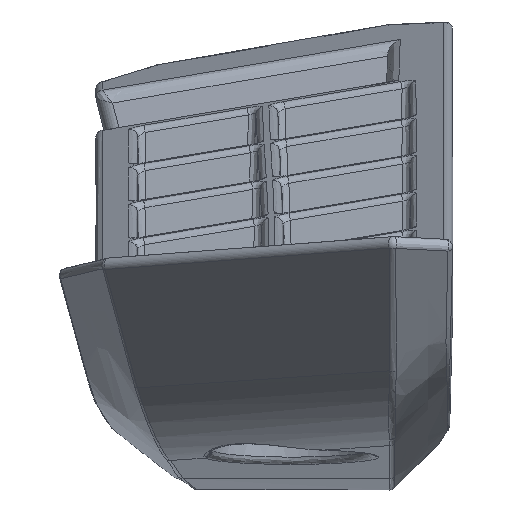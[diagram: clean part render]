
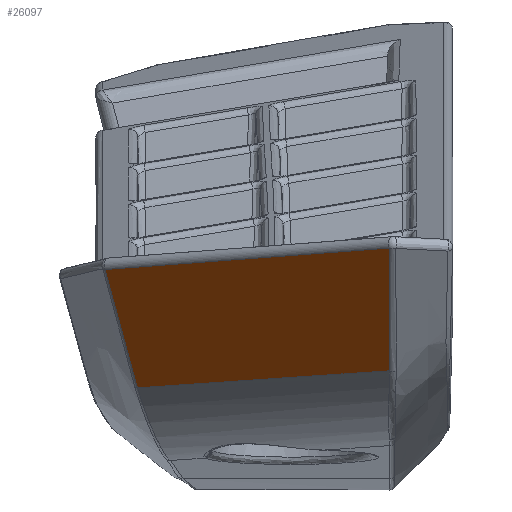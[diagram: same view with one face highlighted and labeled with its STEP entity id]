
A CAD part, top view. The second image highlights one B-rep face of the part: STEP entity #26097.
In plain terms, the highlighted planar face has unit normal (-0.51, -0.528, 0.679).
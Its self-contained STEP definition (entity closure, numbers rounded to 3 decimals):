
#6588=CARTESIAN_POINT('',(-68.124,-231.471,
203.98));
#6668=CARTESIAN_POINT('',(-51.433,-230.365,
217.377));
#6843=DIRECTION('',(0.776,0.057,0.628));
#6844=VECTOR('',#6843,24.27);
#6845=CARTESIAN_POINT('',(-70.265,-223.634,
208.467));
#6846=LINE('',#6845,#6844);
#6847=CARTESIAN_POINT('',(-51.433,-230.365,
217.377));
#6848=CARTESIAN_POINT('',(-51.432,-230.346,
217.392));
#6849=CARTESIAN_POINT('',(-51.431,-230.31,
217.421));
#6850=CARTESIAN_POINT('',(-51.43,-230.257,
217.463));
#6851=CARTESIAN_POINT('',(-51.43,-230.203,
217.505));
#6852=CARTESIAN_POINT('',(-51.429,-230.149,
217.547));
#6853=CARTESIAN_POINT('',(-51.429,-230.09,
217.593));
#6854=CARTESIAN_POINT('',(-51.429,-230.025,
217.644));
#6855=CARTESIAN_POINT('',(-51.428,-229.955,
217.699));
#6856=CARTESIAN_POINT('',(-51.428,-229.88,
217.758));
#6857=CARTESIAN_POINT('',(-51.427,-229.797,
217.822));
#6858=CARTESIAN_POINT('',(-51.427,-229.704,
217.895));
#6859=CARTESIAN_POINT('',(-51.426,-229.597,
217.979));
#6860=CARTESIAN_POINT('',(-51.426,-229.475,
218.074));
#6861=CARTESIAN_POINT('',(-51.425,-229.344,
218.176));
#6862=CARTESIAN_POINT('',(-51.425,-229.211,
218.28));
#6863=CARTESIAN_POINT('',(-51.425,-229.081,
218.381));
#6864=CARTESIAN_POINT('',(-51.424,-228.955,
218.48));
#6865=CARTESIAN_POINT('',(-51.424,-228.831,
218.576));
#6866=CARTESIAN_POINT('',(-51.424,-228.709,
218.672));
#6867=CARTESIAN_POINT('',(-51.424,-228.586,
218.767));
#6868=CARTESIAN_POINT('',(-51.424,-228.464,
218.862));
#6869=CARTESIAN_POINT('',(-51.424,-228.343,
218.956));
#6870=CARTESIAN_POINT('',(-51.424,-228.224,
219.049));
#6871=CARTESIAN_POINT('',(-51.424,-228.104,
219.142));
#6872=CARTESIAN_POINT('',(-51.424,-227.974,
219.243));
#6873=CARTESIAN_POINT('',(-51.424,-227.832,
219.353));
#6874=CARTESIAN_POINT('',(-51.424,-227.68,
219.472));
#6875=CARTESIAN_POINT('',(-51.424,-227.519,
219.597));
#6876=CARTESIAN_POINT('',(-51.424,-227.349,
219.729));
#6877=CARTESIAN_POINT('',(-51.424,-227.166,
219.871));
#6878=CARTESIAN_POINT('',(-51.424,-226.968,
220.025));
#6879=CARTESIAN_POINT('',(-51.424,-226.753,
220.192));
#6880=CARTESIAN_POINT('',(-51.424,-226.518,
220.375));
#6881=CARTESIAN_POINT('',(-51.424,-226.26,
220.576));
#6882=CARTESIAN_POINT('',(-51.424,-225.981,
220.793));
#6883=CARTESIAN_POINT('',(-51.424,-225.68,
221.027));
#6884=CARTESIAN_POINT('',(-51.424,-225.358,
221.278));
#6885=CARTESIAN_POINT('',(-51.424,-225.01,
221.548));
#6886=CARTESIAN_POINT('',(-51.424,-224.633,
221.841));
#6887=CARTESIAN_POINT('',(-51.424,-224.226,
222.158));
#6888=CARTESIAN_POINT('',(-51.424,-223.787,
222.499));
#6889=CARTESIAN_POINT('',(-51.424,-223.313,
222.868));
#6890=CARTESIAN_POINT('',(-51.424,-222.802,
223.266));
#6891=CARTESIAN_POINT('',(-51.424,-222.432,
223.553));
#6892=CARTESIAN_POINT('',(-51.424,-222.241,
223.702));
#6894=DIRECTION('',(-0.779,-0.052,-0.625));
#6895=VECTOR('',#6894,21.432);
#6896=CARTESIAN_POINT('',(-51.433,-230.365,
217.377));
#6897=LINE('',#6896,#6895);
#6898=CARTESIAN_POINT('',(-70.265,-223.634,
208.467));
#6899=CARTESIAN_POINT('',(-70.206,-223.85,
208.343));
#6900=CARTESIAN_POINT('',(-70.088,-224.282,
208.095));
#6901=CARTESIAN_POINT('',(-69.908,-224.943,
207.717));
#6902=CARTESIAN_POINT('',(-69.736,-225.571,
207.358));
#6903=CARTESIAN_POINT('',(-69.576,-226.153,
207.025));
#6904=CARTESIAN_POINT('',(-69.429,-226.686,
206.72));
#6905=CARTESIAN_POINT('',(-69.293,-227.179,
206.439));
#6906=CARTESIAN_POINT('',(-69.166,-227.642,
206.175));
#6907=CARTESIAN_POINT('',(-69.045,-228.084,
205.922));
#6908=CARTESIAN_POINT('',(-68.93,-228.509,
205.678));
#6909=CARTESIAN_POINT('',(-68.822,-228.914,
205.443));
#6910=CARTESIAN_POINT('',(-68.721,-229.296,
205.222));
#6911=CARTESIAN_POINT('',(-68.628,-229.65,
205.018));
#6912=CARTESIAN_POINT('',(-68.542,-229.973,
204.831));
#6913=CARTESIAN_POINT('',(-68.463,-230.265,
204.663));
#6914=CARTESIAN_POINT('',(-68.39,-230.53,
204.511));
#6915=CARTESIAN_POINT('',(-68.323,-230.772,
204.373));
#6916=CARTESIAN_POINT('',(-68.262,-230.993,
204.248));
#6917=CARTESIAN_POINT('',(-68.199,-231.217,
204.121));
#6918=CARTESIAN_POINT('',(-68.15,-231.384,
204.028));
#6919=CARTESIAN_POINT('',(-68.124,-231.471,
203.98));
#9146=CARTESIAN_POINT('',(-70.265,-223.634,
208.467));
#9147=CARTESIAN_POINT('',(-51.424,-222.241,
223.702));
#9148=VERTEX_POINT('',#9146);
#9149=VERTEX_POINT('',#9147);
#9209=VERTEX_POINT('',#6588);
#9212=VERTEX_POINT('',#6668);
#26085=CARTESIAN_POINT('',(-62.446,-225.804,
212.652));
#26086=DIRECTION('',(-0.51,-0.528,0.679));
#26087=DIRECTION('',(-0.829,0.09,-0.552));
#26088=AXIS2_PLACEMENT_3D('',#26085,#26086,#26087);
#26089=PLANE('',#26088);
#26090=ORIENTED_EDGE('',*,*,#26078,.T.);
#26091=ORIENTED_EDGE('',*,*,#26053,.F.);
#26092=ORIENTED_EDGE('',*,*,#24598,.T.);
#26094=ORIENTED_EDGE('',*,*,#26093,.F.);
#26095=EDGE_LOOP('',(#26090,#26091,#26092,#26094));
#26096=FACE_OUTER_BOUND('',#26095,.F.);
#26097=ADVANCED_FACE('',(#26096),#26089,.T.);
#6893=B_SPLINE_CURVE_WITH_KNOTS('',3,(#6847,#6848,#6849,#6850,#6851,#6852,#6853,
#6854,#6855,#6856,#6857,#6858,#6859,#6860,#6861,#6862,#6863,#6864,#6865,#6866,
#6867,#6868,#6869,#6870,#6871,#6872,#6873,#6874,#6875,#6876,#6877,#6878,#6879,
#6880,#6881,#6882,#6883,#6884,#6885,#6886,#6887,#6888,#6889,#6890,#6891,#6892),
.UNSPECIFIED.,.F.,.F.,(4,1,1,1,1,1,1,1,1,1,1,1,1,1,1,1,1,1,1,1,1,1,1,1,1,1,1,1,
1,1,1,1,1,1,1,1,1,1,1,1,1,1,1,4),(0.,0.023,0.047,
0.07,0.093,0.116,0.14,
0.163,0.186,0.209,0.233,
0.256,0.279,0.302,0.326,
0.349,0.372,0.395,0.419,
0.442,0.465,0.488,0.512,
0.535,0.558,0.581,0.605,
0.628,0.651,0.674,0.698,
0.721,0.744,0.767,0.791,
0.814,0.837,0.86,0.884,
0.907,0.93,0.953,0.977,1.),
.UNSPECIFIED.);
#6920=B_SPLINE_CURVE_WITH_KNOTS('',3,(#6898,#6899,#6900,#6901,#6902,#6903,#6904,
#6905,#6906,#6907,#6908,#6909,#6910,#6911,#6912,#6913,#6914,#6915,#6916,#6917,
#6918,#6919),.UNSPECIFIED.,.F.,.F.,(4,1,1,1,1,1,1,1,1,1,1,1,1,1,1,1,1,1,1,4),(
0.,0.053,0.105,0.158,0.211,
0.263,0.316,0.368,0.421,
0.474,0.526,0.579,0.632,
0.684,0.737,0.789,0.842,
0.895,0.947,1.),.UNSPECIFIED.);
#24598=EDGE_CURVE('',#9212,#9209,#6897,.T.);
#26053=EDGE_CURVE('',#9212,#9149,#6893,.T.);
#26078=EDGE_CURVE('',#9148,#9149,#6846,.T.);
#26093=EDGE_CURVE('',#9148,#9209,#6920,.T.);
